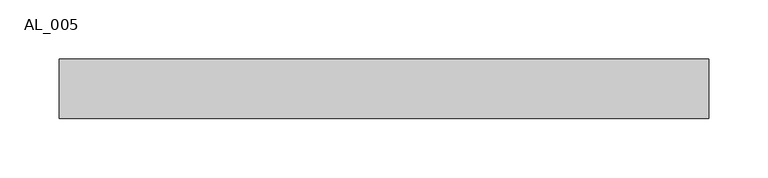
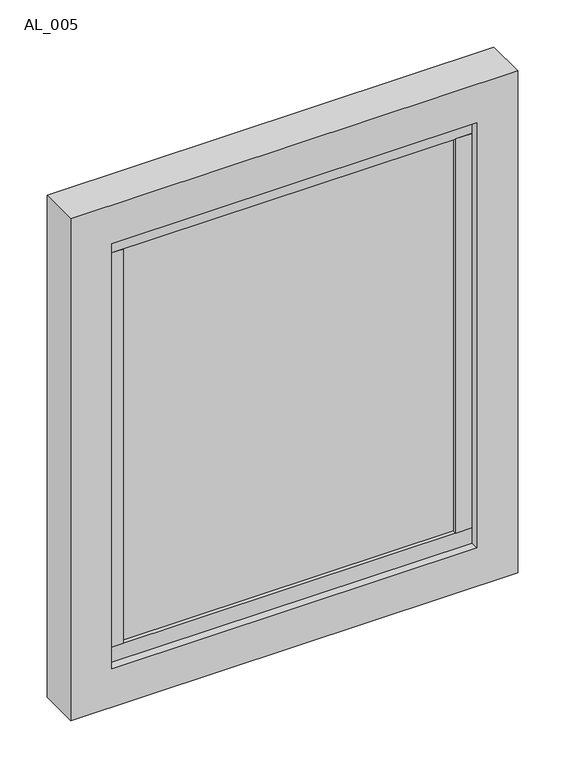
"""IFC4 building model written with IfcOpenShell, lengths in millimetres: plate geometry, TRP_CP_ARC_PF_RE : AL_005."""

from ifc_helpers import new_model, si_unit, frame, origin, place, context, project, spatial, polyline, outline, extrude, source, transform, mapped, element, save


def al_005_3c8699a7(model_context):
    return source(origin(), model_context, "Body", "SweptSolid", [
        extrude(outline(polyline([(203.4519689, -10.0), (-203.4519689, -10.0), (-203.4519689, 10.0), (203.4519689, 10.0), (203.4519689, -10.0)])), frame((0.0, 0.0, 70.0), z_axis=(0.0, 0.0, 1.0), x_axis=(1.0, 0.0, 0.0)), (0.0, 0.0, 1.0), 509.970898),
        extrude(outline(polyline([(223.4519689, -15.0), (203.4519689, -15.0), (203.4519689, 15.0), (223.4519689, 15.0), (223.4519689, -15.0)])), frame((0.0, 0.0, 70.0), z_axis=(0.0, 0.0, 1.0), x_axis=(1.0, 0.0, 0.0)), (0.0, 0.0, 1.0), 509.970898),
        extrude(outline(polyline([(-203.4519689, -15.0), (-223.4519689, -15.0), (-223.4519689, 15.0), (-203.4519689, 15.0), (-203.4519689, -15.0)])), frame((0.0, 0.0, 70.0), z_axis=(0.0, 0.0, 1.0), x_axis=(1.0, 0.0, 0.0)), (0.0, 0.0, 1.0), 509.970898),
        extrude(outline(polyline([(223.4519689, -15.0), (-223.4519689, -15.0), (-223.4519689, 15.0), (223.4519689, 15.0), (223.4519689, -15.0)])), frame((0.0, 0.0, 50.0), z_axis=(0.0, 0.0, 1.0), x_axis=(1.0, 0.0, 0.0)), (0.0, 0.0, 1.0), 20.0),
        extrude(outline(polyline([(223.4519689, -15.0), (-223.4519689, -15.0), (-223.4519689, 15.0), (223.4519689, 15.0), (223.4519689, -15.0)])), frame((0.0, 0.0, 579.970898), z_axis=(0.0, 0.0, 1.0), x_axis=(1.0, 0.0, 0.0)), (0.0, 0.0, 1.0), 20.0),
        extrude(outline(polyline([(649.970898, 273.4519689), (649.970898, -273.4519689), (0.0, -273.4519689), (0.0, 273.4519689), (649.970898, 273.4519689)]), holes=[polyline([(50.0, 223.4519689), (50.0, -223.4519689), (599.970898, -223.4519689), (599.970898, 223.4519689), (50.0, 223.4519689)])]), frame((0.0, -25.0, 0.0), z_axis=(0.0, 1.0, 0.0), x_axis=(0.0, 0.0, 1.0)), (0.0, 0.0, 1.0), 50.0),
    ])


if __name__ == "__main__":
    model = new_model("IFC4")
    model_context = context("Model", 3, world=origin())
    ifc_project = project(units=[si_unit("LENGTHUNIT", "METRE", prefix="MILLI")], contexts=[model_context])
    site = spatial("IfcSite", under=ifc_project)
    building = spatial("IfcBuilding", under=site)
    placement = place(None, origin())
    al_005_shape = al_005_3c8699a7(model_context)
    element("IfcPlate", 1, ObjectType="TRP_CP_ARC_PF_RE : AL_005", at=placement, inside=building, context=model_context, shape_type="MappedRepresentation", body=[
        mapped(al_005_shape, transform((0.0, 0.0, 0.0), x_axis=(1.0, 0.0, 0.0), y_axis=(0.0, 1.0, 0.0), z_axis=(0.0, 0.0, 1.0))),
    ])
    save(model, "model.ifc")
